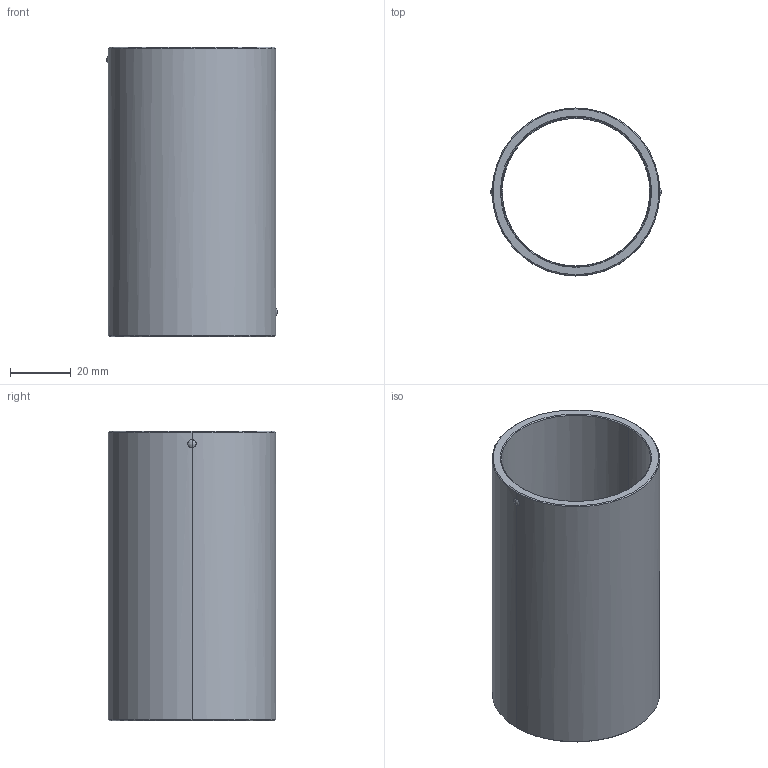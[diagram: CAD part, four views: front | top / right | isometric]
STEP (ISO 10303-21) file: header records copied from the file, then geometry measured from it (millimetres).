
FILE_DESCRIPTION(('CATIA V5 STEP Exchange'),'2;1');
FILE_NAME('C:\Users\Utente\Desktop\IO LAVORO\3D X SITO CF\X SITO\730\730-48x95.stp','2021-01-07T16:05:41+00:00',('none'),('none'),'CATIA Version 5 Release 20 GA (IN-10)','CATIA V5 STEP AP203','none');
FILE_SCHEMA(('CONFIG_CONTROL_DESIGN'));
Length unit declared in the file: millimetre
Products named in the file (1): 730-48x95
Bounding box: 55.99 x 55 x 95 mm (x, y, z)
Volume: 45689.2 mm3; surface area: 32565.3 mm2
Topology: 1 solids, 1 shells, 44 faces, 120 edges, 76 vertices
Faces by surface type: cylinder 18, cone 10, plane 8, sphere 8
Entity records: 1743 total; most frequent: CARTESIAN_POINT 680, ORIENTED_EDGE 240, DIRECTION 159, EDGE_CURVE 120, AXIS2_PLACEMENT_3D 78, VERTEX_POINT 76, B_SPLINE_CURVE_WITH_KNOTS 49, EDGE_LOOP 48
